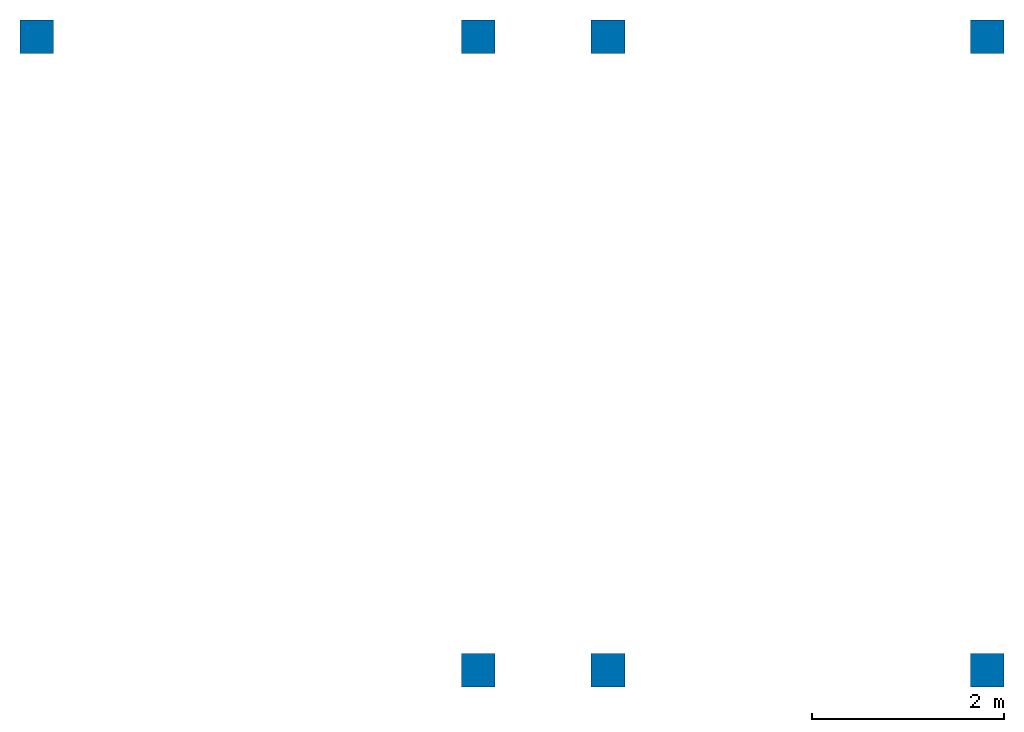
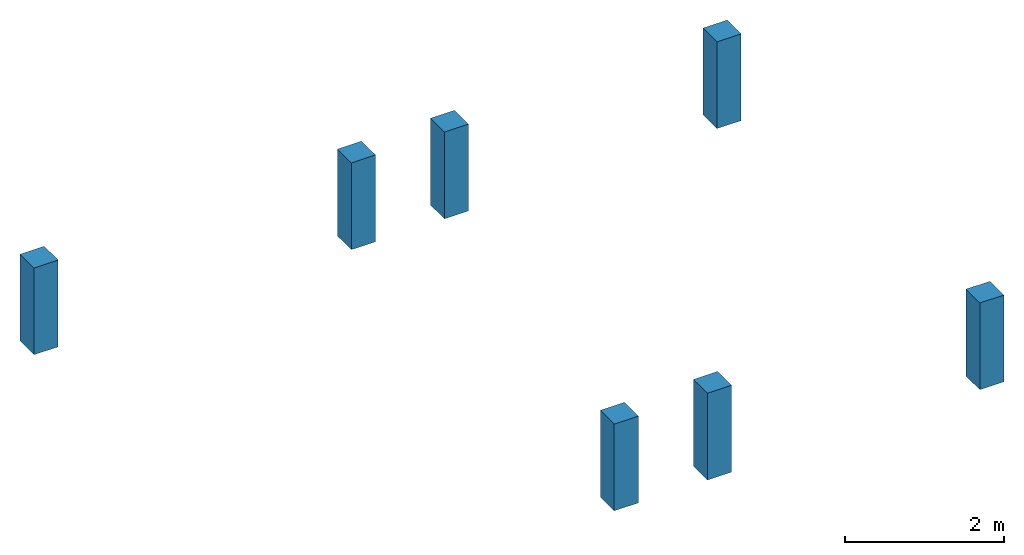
# One storey: 7 columns.
"""IFC2X3 building model written with IfcOpenShell, lengths in millimetres."""

from ifc_helpers import new_model, entity, si_unit, converted_unit, derived_unit, direction, frame, origin, origin_with_axes, place, context, subcontext, project, spatial, faceted_brep, material, type_object, element, save


model = new_model("IFC2X3")

# Units and contexts
model_context = context("Model", 3, precision=0.01, world=origin(), true_north=direction((6.12303176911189e-17, 1.0)))
plan_context = context("Plan", 3, precision=1e-05, world=origin_with_axes())
body_context = subcontext(model_context, "Body", "Model", "MODEL_VIEW")
ifc_project = project(units=[converted_unit("PLANEANGLEUNIT", "DEGREE", entity("IfcPositiveLengthMeasure", 0.0174532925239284), si_unit("PLANEANGLEUNIT", "RADIAN"), dimensions=[0, 0, 0, 0, 0, 0, 0]), si_unit("AREAUNIT", "SQUARE_METRE"), si_unit("LENGTHUNIT", "METRE", prefix="MILLI"), si_unit("MASSUNIT", "GRAM", prefix="KILO"), si_unit("POWERUNIT", "WATT"), si_unit("PRESSUREUNIT", "PASCAL"), si_unit("FORCEUNIT", "NEWTON", prefix="KILO"), si_unit("ELECTRICVOLTAGEUNIT", "VOLT"), si_unit("ELECTRICCURRENTUNIT", "AMPERE"), si_unit("THERMODYNAMICTEMPERATUREUNIT", "DEGREE_CELSIUS"), si_unit("TIMEUNIT", "SECOND"), si_unit("VOLUMEUNIT", "CUBIC_METRE"), derived_unit("LINEARVELOCITYUNIT", [(si_unit("LENGTHUNIT", "METRE"), 1), (si_unit("TIMEUNIT", "SECOND"), -1)]), derived_unit("VOLUMETRICFLOWRATEUNIT", [(si_unit("VOLUMEUNIT", "CUBIC_METRE"), 1), (si_unit("TIMEUNIT", "SECOND"), -1)]), derived_unit("THERMALTRANSMITTANCEUNIT", [(si_unit("POWERUNIT", "WATT"), 1), (si_unit("THERMODYNAMICTEMPERATUREUNIT", "KELVIN"), -1), (si_unit("AREAUNIT", "SQUARE_METRE"), -1)]), derived_unit("SOUNDPRESSUREUNIT", [(si_unit("PRESSUREUNIT", "PASCAL"), 1)])], contexts=[model_context, plan_context])

# Site, building, storey
site_placement = place(None, frame((2314154.5009392, 1029894.10887124, 0.0), z_axis=(0.0, 0.0, 1.0), x_axis=(1.0, 0.0, 0.0)))
site = spatial("IfcSite", under=ifc_project, at=site_placement, Name="Default", CompositionType="ELEMENT")
building_placement = place(site_placement, origin_with_axes())
building = spatial("IfcBuilding", under=site, at=building_placement, CompositionType="ELEMENT")
storey_placement = place(building_placement, frame((0.0, 0.0, 7570.0), z_axis=(0.0, 0.0, 1.0), x_axis=(1.0, 0.0, 0.0)))
storey = spatial("IfcBuildingStorey", under=building, at=storey_placement, Name="XX - C +7,57 TB U1", CompositionType="ELEMENT", Elevation=7570.0)

# Columns
ifc_material = material(Name="<Unnamed>")
column_type_1 = type_object("IfcColumnType", Name="NSW Søyle - Betong firkantet:350 x 350 mm", PredefinedType="COLUMN", material=ifc_material)
column_1_placement = place(storey_placement, frame((0.0, 0.0, -7570.0), z_axis=(0.0, 0.0, 1.0), x_axis=(1.0, 0.0, 0.0)))
element("IfcColumn", 1, at=column_1_placement, inside=storey, type_object=column_type_1, Name="NSW Søyle - Betong firkantet:350 x 350 mm", ObjectType="NSW Søyle - Betong firkantet:350 x 350 mm", context=body_context, shape_type="Brep", body=[
    faceted_brep([(302441.13394735, -36474.4514097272, 9320.0), (302441.13394735, -36824.4514097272, 9320.0), (302441.13394735, -36824.4514097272, 10650.0), (302441.13394735, -36474.4514097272, 10650.0), (302091.13394735, -36474.4514097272, 9320.0), (302091.13394735, -36474.4514097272, 10650.0), (302091.13394735, -36824.4514097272, 9320.0), (302091.13394735, -36824.4514097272, 10650.0)], [[[0, 1, 2, 3]], [[4, 0, 3, 5]], [[6, 4, 5, 7]], [[1, 6, 7, 2]], [[3, 2, 7, 5]], [[4, 6, 1, 0]]], orient=[[False], [False], [False], [False], [False], [False]]),
])
column_type_2 = type_object("IfcColumnType", Name="NSW Søyle - Betong firkantet:350 x 350 mm", PredefinedType="COLUMN", material=ifc_material)
column_2_placement = place(storey_placement, frame((0.0, 0.0, -7570.0), z_axis=(0.0, 0.0, 1.0), x_axis=(1.0, 0.0, 0.0)))
element("IfcColumn", 2, at=column_2_placement, inside=storey, type_object=column_type_2, Name="NSW Søyle - Betong firkantet:350 x 350 mm", ObjectType="NSW Søyle - Betong firkantet:350 x 350 mm", context=body_context, shape_type="Brep", body=[
    faceted_brep([(308391.13394735, -36474.4514097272, 9320.0), (308391.13394735, -36824.4514097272, 9320.0), (308391.13394735, -36824.4514097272, 10650.0), (308391.13394735, -36474.4514097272, 10650.0), (308041.13394735, -36474.4514097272, 9320.0), (308041.13394735, -36474.4514097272, 10650.0), (308041.13394735, -36824.4514097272, 9320.0), (308041.13394735, -36824.4514097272, 10650.0)], [[[0, 1, 2, 3]], [[4, 0, 3, 5]], [[6, 4, 5, 7]], [[1, 6, 7, 2]], [[3, 2, 7, 5]], [[4, 6, 1, 0]]], orient=[[False], [False], [False], [False], [False], [False]]),
])
column_type_3 = type_object("IfcColumnType", Name="NSW Søyle - Betong firkantet:350 x 350 mm", PredefinedType="COLUMN", material=ifc_material)
column_3_placement = place(storey_placement, frame((0.0, 0.0, -7570.0), z_axis=(0.0, 0.0, 1.0), x_axis=(1.0, 0.0, 0.0)))
element("IfcColumn", 3, at=column_3_placement, inside=storey, type_object=column_type_3, Name="NSW Søyle - Betong firkantet:350 x 350 mm", ObjectType="NSW Søyle - Betong firkantet:350 x 350 mm", context=body_context, shape_type="Brep", body=[
    faceted_brep([(312341.13394735, -36474.4514097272, 9320.0), (312341.13394735, -36824.4514097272, 9320.0), (312341.13394735, -36824.4514097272, 10650.0), (312341.13394735, -36474.4514097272, 10650.0), (311991.13394735, -36474.4514097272, 9320.0), (311991.13394735, -36474.4514097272, 10650.0), (311991.13394735, -36824.4514097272, 9320.0), (311991.13394735, -36824.4514097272, 10650.0)], [[[0, 1, 2, 3]], [[4, 0, 3, 5]], [[6, 4, 5, 7]], [[1, 6, 7, 2]], [[3, 2, 7, 5]], [[4, 6, 1, 0]]], orient=[[False], [False], [False], [False], [False], [False]]),
])
column_type_4 = type_object("IfcColumnType", Name="NSW Søyle - Betong firkantet:350 x 350 mm", PredefinedType="COLUMN", material=ifc_material)
column_4_placement = place(storey_placement, frame((0.0, 0.0, -7570.0), z_axis=(0.0, 0.0, 1.0), x_axis=(1.0, 0.0, 0.0)))
element("IfcColumn", 4, at=column_4_placement, inside=storey, type_object=column_type_4, Name="NSW Søyle - Betong firkantet:350 x 350 mm", ObjectType="NSW Søyle - Betong firkantet:350 x 350 mm", context=body_context, shape_type="Brep", body=[
    faceted_brep([(307041.133944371, -36474.4514097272, 9320.0), (307041.133944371, -36824.4514097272, 9320.0), (307041.133944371, -36824.4514097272, 10650.0), (307041.133944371, -36474.4514097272, 10650.0), (306691.133944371, -36474.4514097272, 9320.0), (306691.133944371, -36474.4514097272, 10650.0), (306691.133944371, -36824.4514097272, 9320.0), (306691.133944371, -36824.4514097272, 10650.0)], [[[0, 1, 2, 3]], [[4, 0, 3, 5]], [[6, 4, 5, 7]], [[1, 6, 7, 2]], [[3, 2, 7, 5]], [[4, 6, 1, 0]]], orient=[[False], [False], [False], [False], [False], [False]]),
])
column_type_5 = type_object("IfcColumnType", Name="NSW Søyle - Betong firkantet:350 x 350 mm", PredefinedType="COLUMN", material=ifc_material)
column_5_placement = place(storey_placement, frame((0.0, 0.0, -7570.0), z_axis=(0.0, 0.0, 1.0), x_axis=(1.0, 0.0, 0.0)))
element("IfcColumn", 5, at=column_5_placement, inside=storey, type_object=column_type_5, Name="NSW Søyle - Betong firkantet:350 x 350 mm", ObjectType="NSW Søyle - Betong firkantet:350 x 350 mm", context=body_context, shape_type="Brep", body=[
    faceted_brep([(308391.13394735, -43074.4514097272, 9320.0), (308391.13394735, -43424.4514097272, 9320.0), (308391.13394735, -43424.4514097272, 10650.0), (308391.13394735, -43074.4514097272, 10650.0), (308041.13394735, -43074.4514097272, 9320.0), (308041.13394735, -43074.4514097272, 10650.0), (308041.13394735, -43424.4514097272, 9320.0), (308041.13394735, -43424.4514097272, 10650.0)], [[[0, 1, 2, 3]], [[4, 0, 3, 5]], [[6, 4, 5, 7]], [[1, 6, 7, 2]], [[3, 2, 7, 5]], [[4, 6, 1, 0]]], orient=[[False], [False], [False], [False], [False], [False]]),
])
column_type_6 = type_object("IfcColumnType", Name="NSW Søyle - Betong firkantet:350 x 350 mm", PredefinedType="COLUMN", material=ifc_material)
column_6_placement = place(storey_placement, frame((0.0, 0.0, -7570.0), z_axis=(0.0, 0.0, 1.0), x_axis=(1.0, 0.0, 0.0)))
element("IfcColumn", 6, at=column_6_placement, inside=storey, type_object=column_type_6, Name="NSW Søyle - Betong firkantet:350 x 350 mm", ObjectType="NSW Søyle - Betong firkantet:350 x 350 mm", context=body_context, shape_type="Brep", body=[
    faceted_brep([(312341.13394735, -43074.4514097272, 9320.0), (312341.13394735, -43424.4514097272, 9320.0), (312341.13394735, -43424.4514097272, 10650.0), (312341.13394735, -43074.4514097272, 10650.0), (311991.13394735, -43074.4514097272, 9320.0), (311991.13394735, -43074.4514097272, 10650.0), (311991.13394735, -43424.4514097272, 9320.0), (311991.13394735, -43424.4514097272, 10650.0)], [[[0, 1, 2, 3]], [[4, 0, 3, 5]], [[6, 4, 5, 7]], [[1, 6, 7, 2]], [[3, 2, 7, 5]], [[4, 6, 1, 0]]], orient=[[False], [False], [False], [False], [False], [False]]),
])
column_type_7 = type_object("IfcColumnType", Name="NSW Søyle - Betong firkantet:350 x 350 mm", PredefinedType="COLUMN", material=ifc_material)
column_7_placement = place(storey_placement, frame((0.0, 0.0, -7570.0), z_axis=(0.0, 0.0, 1.0), x_axis=(1.0, 0.0, 0.0)))
element("IfcColumn", 7, at=column_7_placement, inside=storey, type_object=column_type_7, Name="NSW Søyle - Betong firkantet:350 x 350 mm", ObjectType="NSW Søyle - Betong firkantet:350 x 350 mm", context=body_context, shape_type="Brep", body=[
    faceted_brep([(307041.13394735, -43074.4514097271, 9320.0), (307041.13394735, -43424.4514097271, 9320.0), (307041.13394735, -43424.4514097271, 10650.0), (307041.13394735, -43074.4514097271, 10650.0), (306691.13394735, -43074.4514097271, 9320.0), (306691.13394735, -43074.4514097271, 10650.0), (306691.13394735, -43424.4514097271, 9320.0), (306691.13394735, -43424.4514097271, 10650.0)], [[[0, 1, 2, 3]], [[4, 0, 3, 5]], [[6, 4, 5, 7]], [[1, 6, 7, 2]], [[3, 2, 7, 5]], [[4, 6, 1, 0]]], orient=[[False], [False], [False], [False], [False], [False]]),
])

save(model, "model.ifc")
